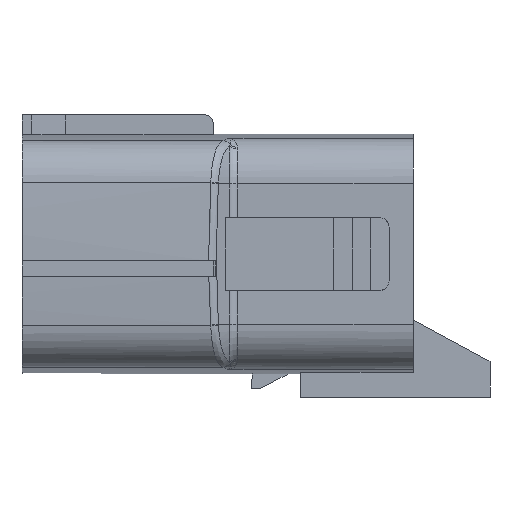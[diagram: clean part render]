
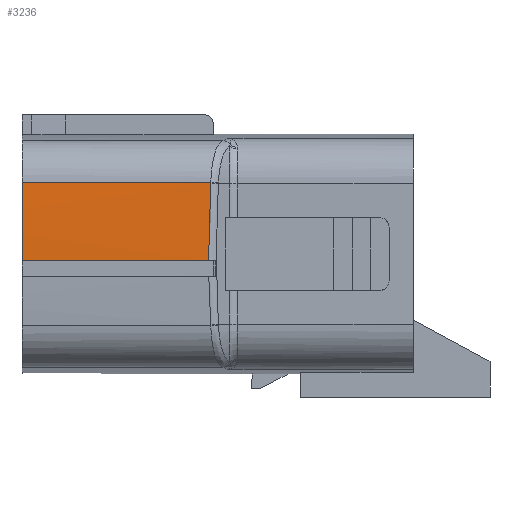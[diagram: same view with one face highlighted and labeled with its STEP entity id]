
A CAD part, front view. The second image highlights one B-rep face of the part: STEP entity #3236.
In plain terms, the highlighted cylindrical face has radius 92.7 mm (diameter 185.4 mm), a partial arc.
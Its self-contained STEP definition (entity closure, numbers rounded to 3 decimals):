
#3141=AXIS2_PLACEMENT_3D('Cylinder Axis2P3D',#3138,#3139,#3140) ;
#3226=AXIS2_PLACEMENT_3D('Circle Axis2P3D',#3224,#3225,$) ;
#1169=CARTESIAN_POINT('Vertex',(19.215,-17.247,-0.7)) ;
#1216=CARTESIAN_POINT('Vertex',(19.437,-16.962,7.304)) ;
#1220=CARTESIAN_POINT('Control Point',(19.437,-16.962,7.304)) ;
#1221=CARTESIAN_POINT('Control Point',(19.339,-17.088,5.709)) ;
#1222=CARTESIAN_POINT('Control Point',(19.268,-17.18,4.109)) ;
#1223=CARTESIAN_POINT('Control Point',(19.224,-17.237,2.507)) ;
#1224=CARTESIAN_POINT('Control Point',(19.206,-17.259,0.903)) ;
#1225=CARTESIAN_POINT('Control Point',(19.215,-17.247,-0.7)) ;
#2921=CARTESIAN_POINT('Vertex',(19.442,-16.955,7.385)) ;
#2972=CARTESIAN_POINT('Control Point',(19.442,-16.955,7.385)) ;
#2973=CARTESIAN_POINT('Control Point',(19.441,-16.957,7.365)) ;
#2974=CARTESIAN_POINT('Control Point',(19.439,-16.959,7.345)) ;
#2975=CARTESIAN_POINT('Control Point',(19.438,-16.96,7.324)) ;
#2976=CARTESIAN_POINT('Control Point',(19.437,-16.962,7.304)) ;
#2990=CARTESIAN_POINT('Line Origine',(9.608,-17.247,-0.7)) ;
#2994=CARTESIAN_POINT('Vertex',(0.,-17.247,-0.7)) ;
#3138=CARTESIAN_POINT('Axis2P3D Location',(20.15,75.45,0.)) ;
#3217=CARTESIAN_POINT('Line Origine',(20.15,-16.955,7.385)) ;
#3221=CARTESIAN_POINT('Vertex',(0.,-16.955,7.385)) ;
#3224=CARTESIAN_POINT('Axis2P3D Location',(0.,75.45,0.)) ;
#2991=DIRECTION('Vector Direction',(-1.,0.,0.)) ;
#3139=DIRECTION('Axis2P3D Direction',(-1.,-0.,0.)) ;
#3140=DIRECTION('Axis2P3D XDirection',(0.,-0.997,-0.08)) ;
#3218=DIRECTION('Vector Direction',(-1.,0.,0.)) ;
#3225=DIRECTION('Axis2P3D Direction',(-1.,-0.,0.)) ;
#2992=VECTOR('Line Direction',#2991,1.) ;
#3219=VECTOR('Line Direction',#3218,1.) ;
#3230=ORIENTED_EDGE('',*,*,#3223,.T.) ;
#3231=ORIENTED_EDGE('',*,*,#3228,.T.) ;
#3232=ORIENTED_EDGE('',*,*,#2996,.F.) ;
#3233=ORIENTED_EDGE('',*,*,#1226,.T.) ;
#3234=ORIENTED_EDGE('',*,*,#2977,.T.) ;
#3236=ADVANCED_FACE('BODY',(#3235),#3142,.T.) ;
#1219=B_SPLINE_CURVE_WITH_KNOTS('',5,(#1220,#1221,#1222,#1223,#1224,#1225),.UNSPECIFIED.,.F.,.U.,(6,6),(4.285,12.268),.UNSPECIFIED.) ;
#2971=B_SPLINE_CURVE_WITH_KNOTS('',4,(#2972,#2973,#2974,#2975,#2976),.UNSPECIFIED.,.F.,.U.,(5,5),(5.542,5.627),.UNSPECIFIED.) ;
#3227=CIRCLE('generated circle',#3226,92.7) ;
#3142=CYLINDRICAL_SURFACE('generated cylinder',#3141,92.7) ;
#1226=EDGE_CURVE('',#1170,#1217,#1219,.F.) ;
#2977=EDGE_CURVE('',#1217,#2922,#2971,.F.) ;
#2996=EDGE_CURVE('',#1170,#2995,#2993,.T.) ;
#3223=EDGE_CURVE('',#2922,#3222,#3220,.T.) ;
#3228=EDGE_CURVE('',#3222,#2995,#3227,.F.) ;
#3229=EDGE_LOOP('',(#3230,#3231,#3232,#3233,#3234)) ;
#3235=FACE_OUTER_BOUND('',#3229,.T.) ;
#2993=LINE('Line',#2990,#2992) ;
#3220=LINE('Line',#3217,#3219) ;
#1170=VERTEX_POINT('',#1169) ;
#1217=VERTEX_POINT('',#1216) ;
#2922=VERTEX_POINT('',#2921) ;
#2995=VERTEX_POINT('',#2994) ;
#3222=VERTEX_POINT('',#3221) ;
